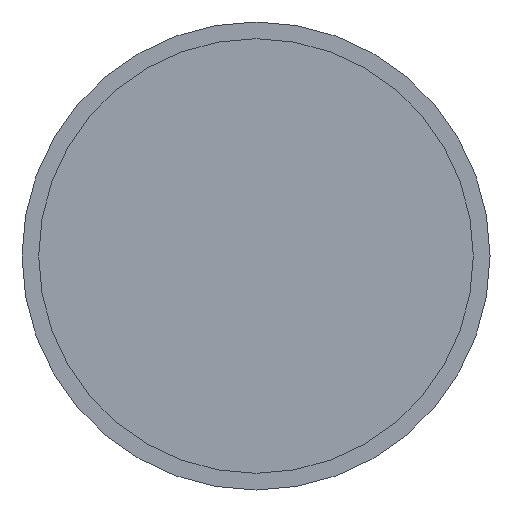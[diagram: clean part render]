
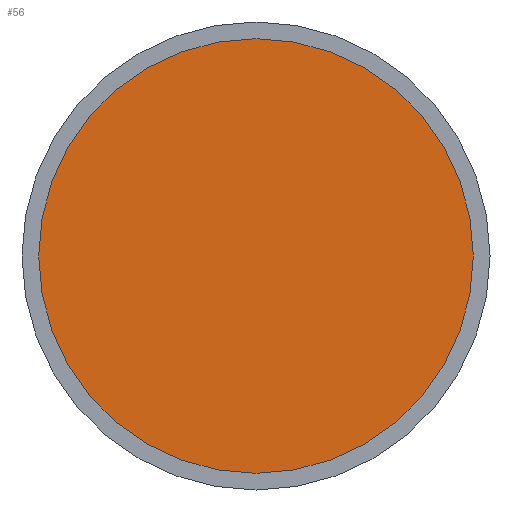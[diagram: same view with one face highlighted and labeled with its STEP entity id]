
A CAD part, front view. The second image highlights one B-rep face of the part: STEP entity #56.
In plain terms, the highlighted planar face has unit normal (0, -1, 0).
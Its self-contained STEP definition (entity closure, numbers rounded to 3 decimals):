
#56=ADVANCED_FACE('',(#93),#95,.T.);
#93=FACE_BOUND('',#94,.T.);
#94=EDGE_LOOP('',(#204));
#95=PLANE('',#96);
#96=AXIS2_PLACEMENT_3D('',#97,#98,#99);
#97=CARTESIAN_POINT('',(0.,-70.,0.));
#98=DIRECTION('',(0.,-1.,0.));
#99=DIRECTION('',(0.,0.,-1.));
#204=ORIENTED_EDGE('',*,*,#229,.T.);
#229=EDGE_CURVE('',#244,#244,#245,.T.);
#244=VERTEX_POINT('',#274);
#245=CIRCLE('',#275,19.5);
#274=CARTESIAN_POINT('',(0.,-70.,19.5));
#275=AXIS2_PLACEMENT_3D('',#276,#277,#278);
#276=CARTESIAN_POINT('',(0.,-70.,0.));
#277=DIRECTION('',(0.,-1.,0.));
#278=DIRECTION('',(0.,0.,1.));
